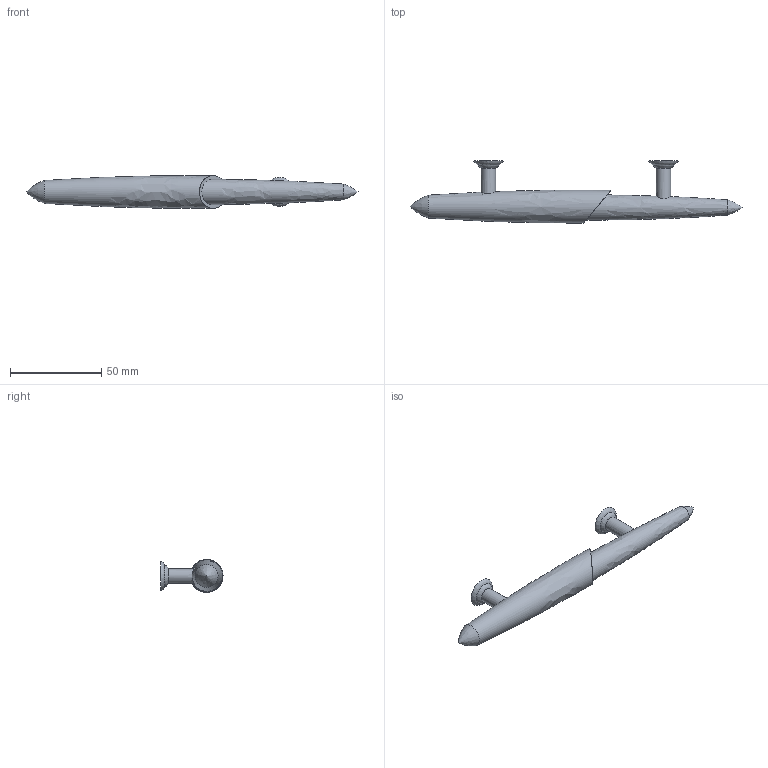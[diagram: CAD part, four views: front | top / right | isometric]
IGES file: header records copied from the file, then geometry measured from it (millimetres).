
Start section: Data from Parasolid IGES Translator 15.0.47, Copyright(c) 2006 Siemens P LM Software. All Rights Reserved.
Global section: file name:  9070773.igs; native system:  By UGS Corp.; preprocessor: XPlus GENERIC/IGES 3.0; author: Noname; organization: Noname; date: 20140122.171943; units: millimetre
Bounding box: 182 x 33.99 x 17.94 mm (x, y, z)
Surface area: 9831.2 mm2 (no closed solid volume)
Topology: 0 solids, 0 shells, 17 faces, 58 edges, 38 vertices
Faces by surface type: revolution 12, extrusion 5
